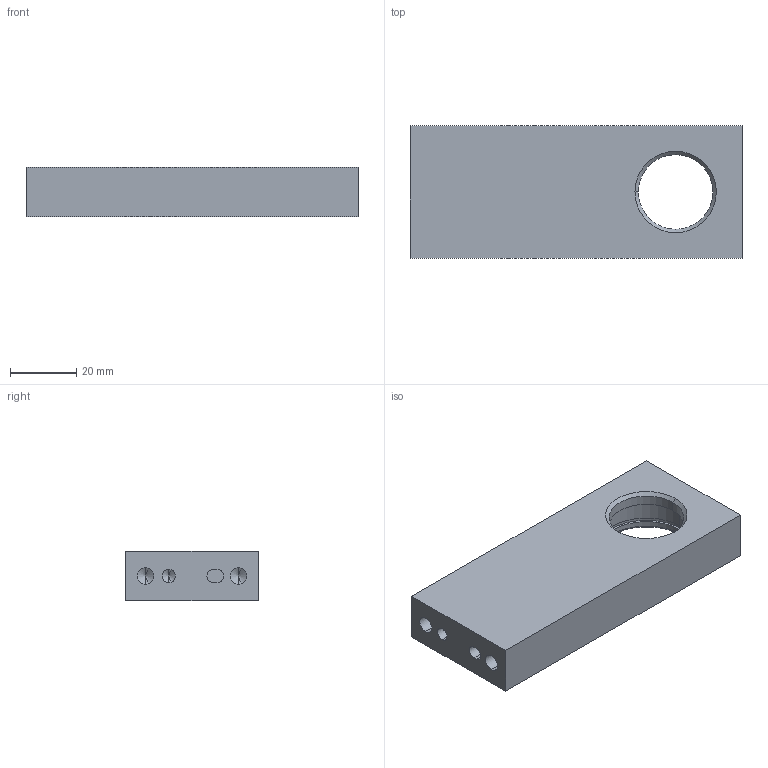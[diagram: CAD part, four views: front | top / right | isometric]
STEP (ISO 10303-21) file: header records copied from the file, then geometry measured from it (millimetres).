
FILE_DESCRIPTION (( 'STEP AP214' ), '1' );
FILE_NAME ('嘊_娃必莞奘臣掭皋1.STEP', '2024-05-07T00:13:21', ( '' ), ( '' ), 'SwSTEP 2.0', 'SolidWorks 2023', '' );
FILE_SCHEMA (( 'AUTOMOTIVE_DESIGN' ));
Length unit declared in the file: millimetre
Products named in the file (1): ③_ﾍﾞｱﾘﾝｸﾞﾊｳｼﾞﾝｸﾞ1
Bounding box: 100 x 40 x 15 mm (x, y, z)
Volume: 50633.4 mm3; surface area: 13364 mm2
Topology: 1 solids, 1 shells, 40 faces, 90 edges, 53 vertices
Faces by surface type: cylinder 16, plane 12, cone 10, torus 2
Entity records: 1103 total; most frequent: DIRECTION 206, CARTESIAN_POINT 178, ORIENTED_EDGE 168, EDGE_CURVE 84, AXIS2_PLACEMENT_3D 81, VERTEX_POINT 53, EDGE_LOOP 49, LINE 44
